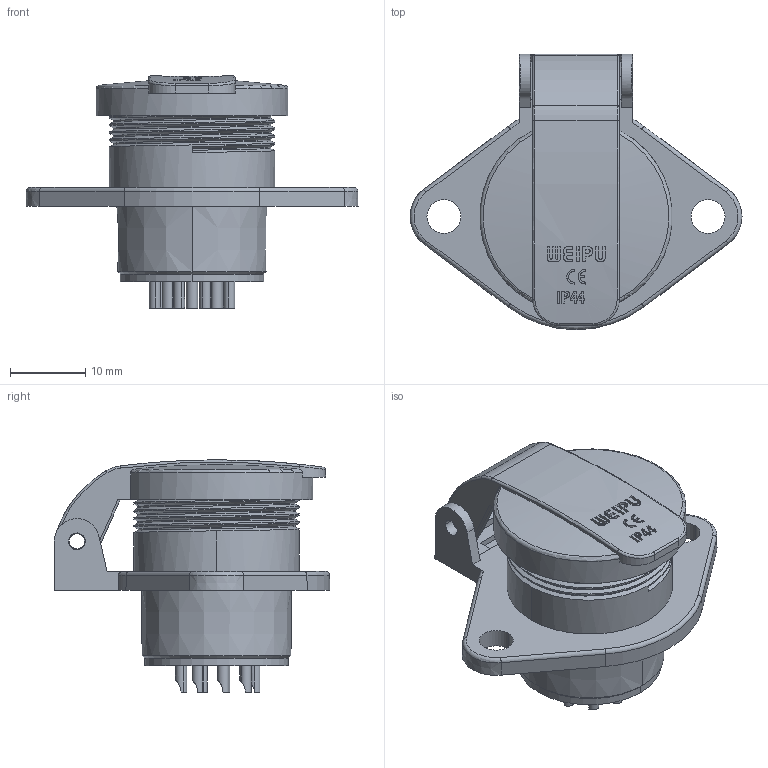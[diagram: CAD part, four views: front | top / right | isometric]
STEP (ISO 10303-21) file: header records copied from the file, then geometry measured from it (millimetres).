
FILE_DESCRIPTION((''),'2;1');
FILE_NAME('WF20ZG','2016-10-12T',('Administrator'),(''),'PRO/ENGINEER BY PARAMETRIC TECHNOLOGY CORPORATION, 2015240','PRO/ENGINEER BY PARAMETRIC TECHNOLOGY CORPORATION, 2015240','');
FILE_SCHEMA(('CONFIG_CONTROL_DESIGN'));
Length unit declared in the file: millimetre
Products named in the file (1): WF20ZG
Bounding box: 44 x 36.5 x 30.8 mm (x, y, z)
Volume: 10728 mm3; surface area: 8271.9 mm2
Topology: 1 solids, 3 shells, 480 faces, 1283 edges, 848 vertices
Faces by surface type: plane 222, cylinder 147, extrusion 55, sphere 18, torus 15, cone 13, bspline 10
Entity records: 19554 total; most frequent: CARTESIAN_POINT 7610, ORIENTED_EDGE 2566, DIRECTION 2350, EDGE_CURVE 1283, AXIS2_PLACEMENT_3D 869, VERTEX_POINT 848, VECTOR 612, LINE 557
